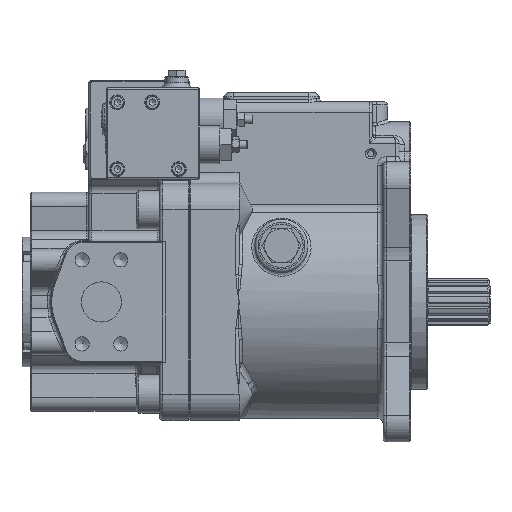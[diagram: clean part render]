
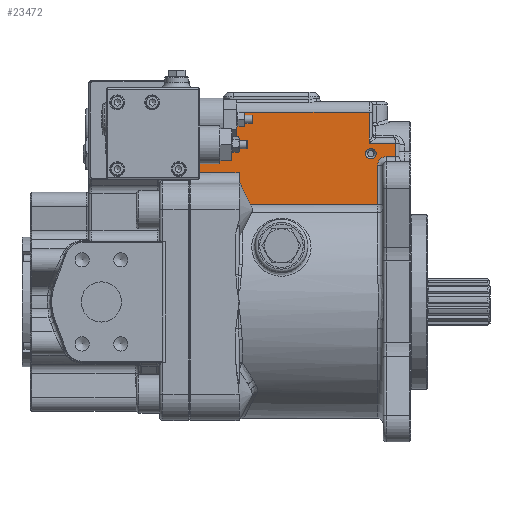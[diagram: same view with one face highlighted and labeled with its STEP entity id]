
A CAD part, left-side view. The second image highlights one B-rep face of the part: STEP entity #23472.
In plain terms, the highlighted planar face has unit normal (-1, 0, 0).
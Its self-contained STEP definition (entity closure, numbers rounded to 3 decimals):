
#1140=LINE('',#35312,#2346);
#1146=LINE('',#35328,#2352);
#1174=LINE('',#35535,#2380);
#1202=LINE('',#35704,#2408);
#1280=LINE('',#35998,#2486);
#1281=LINE('',#35999,#2487);
#1282=LINE('',#36000,#2488);
#1283=LINE('',#36002,#2489);
#1284=LINE('',#36006,#2490);
#1285=LINE('',#36008,#2491);
#1286=LINE('',#36009,#2492);
#2346=VECTOR('',#28558,46.);
#2352=VECTOR('',#28574,8.);
#2380=VECTOR('',#28658,120.426);
#2408=VECTOR('',#28742,57.);
#2486=VECTOR('',#29030,29.);
#2487=VECTOR('',#29031,169.);
#2488=VECTOR('',#29032,24.375);
#2489=VECTOR('',#29033,37.212);
#2490=VECTOR('',#29036,9.);
#2491=VECTOR('',#29037,12.75);
#2492=VECTOR('',#29038,25.);
#4306=FACE_BOUND('',#6504,.T.);
#4883=FACE_OUTER_BOUND('',#6503,.T.);
#6503=EDGE_LOOP('',(#15863,#15864,#15865,#15866,#15867,#15868,#15869,#15870,
#15871,#15872,#15873,#15874));
#6504=EDGE_LOOP('',(#15875));
#8278=CIRCLE('',#25356,8.);
#8279=CIRCLE('',#25357,5.);
#9560=VERTEX_POINT('',#35304);
#9563=VERTEX_POINT('',#35310);
#9568=VERTEX_POINT('',#35326);
#9617=VERTEX_POINT('',#35531);
#9619=VERTEX_POINT('',#35534);
#9657=VERTEX_POINT('',#35703);
#9744=VERTEX_POINT('',#35996);
#9745=VERTEX_POINT('',#35997);
#9746=VERTEX_POINT('',#36001);
#9747=VERTEX_POINT('',#36003);
#9748=VERTEX_POINT('',#36005);
#9749=VERTEX_POINT('',#36007);
#9750=VERTEX_POINT('',#36010);
#11781=EDGE_CURVE('',#9560,#9563,#1140,.T.);
#11789=EDGE_CURVE('',#9568,#9563,#1146,.T.);
#11844=EDGE_CURVE('',#9619,#9617,#1174,.T.);
#11896=EDGE_CURVE('',#9560,#9657,#1202,.T.);
#12033=EDGE_CURVE('',#9744,#9745,#1280,.T.);
#12034=EDGE_CURVE('',#9657,#9744,#1281,.T.);
#12035=EDGE_CURVE('',#9568,#9619,#1282,.T.);
#12036=EDGE_CURVE('',#9746,#9617,#1283,.T.);
#12037=EDGE_CURVE('',#9747,#9746,#8278,.T.);
#12038=EDGE_CURVE('',#9748,#9747,#1284,.T.);
#12039=EDGE_CURVE('',#9749,#9748,#1285,.T.);
#12040=EDGE_CURVE('',#9749,#9745,#1286,.T.);
#12041=EDGE_CURVE('',#9750,#9750,#8279,.T.);
#15863=ORIENTED_EDGE('',*,*,#12033,.F.);
#15864=ORIENTED_EDGE('',*,*,#12034,.F.);
#15865=ORIENTED_EDGE('',*,*,#11896,.F.);
#15866=ORIENTED_EDGE('',*,*,#11781,.T.);
#15867=ORIENTED_EDGE('',*,*,#11789,.F.);
#15868=ORIENTED_EDGE('',*,*,#12035,.T.);
#15869=ORIENTED_EDGE('',*,*,#11844,.T.);
#15870=ORIENTED_EDGE('',*,*,#12036,.F.);
#15871=ORIENTED_EDGE('',*,*,#12037,.F.);
#15872=ORIENTED_EDGE('',*,*,#12038,.F.);
#15873=ORIENTED_EDGE('',*,*,#12039,.F.);
#15874=ORIENTED_EDGE('',*,*,#12040,.T.);
#15875=ORIENTED_EDGE('',*,*,#12041,.T.);
#21239=PLANE('',#25355);
#23472=ADVANCED_FACE('',(#4883,#4306),#21239,.T.);
#25355=AXIS2_PLACEMENT_3D('',#35995,#29028,#29029);
#25356=AXIS2_PLACEMENT_3D('',#36004,#29034,#29035);
#25357=AXIS2_PLACEMENT_3D('',#36011,#29039,#29040);
#28558=DIRECTION('',(0.,-1.,0.));
#28574=DIRECTION('',(0.,0.,1.));
#28658=DIRECTION('',(0.,-1.,0.));
#28742=DIRECTION('',(0.,0.,1.));
#29028=DIRECTION('center_axis',(-1.,0.,0.));
#29029=DIRECTION('ref_axis',(0.,0.,1.));
#29030=DIRECTION('',(0.,0.,-1.));
#29031=DIRECTION('',(0.,-1.,0.));
#29032=DIRECTION('',(0.,-0.434,-0.901));
#29033=DIRECTION('',(0.,0.,-1.));
#29034=DIRECTION('center_axis',(-1.,0.,0.));
#29035=DIRECTION('ref_axis',(0.,0.707,0.707));
#29036=DIRECTION('',(0.,1.,0.));
#29037=DIRECTION('',(0.,0.,-1.));
#29038=DIRECTION('',(0.,1.,0.));
#29039=DIRECTION('center_axis',(1.,0.,0.));
#29040=DIRECTION('ref_axis',(0.,0.,1.));
#35304=CARTESIAN_POINT('',(-67.,211.,122.));
#35310=CARTESIAN_POINT('',(-67.,165.,122.));
#35312=CARTESIAN_POINT('',(-67.,215.,122.));
#35326=CARTESIAN_POINT('',(-67.,165.,114.));
#35328=CARTESIAN_POINT('',(-67.,165.,62.375));
#35531=CARTESIAN_POINT('',(-67.,34.,92.038));
#35534=CARTESIAN_POINT('',(-67.,154.426,92.038));
#35535=CARTESIAN_POINT('',(-67.,165.,92.038));
#35703=CARTESIAN_POINT('',(-67.,211.,179.));
#35704=CARTESIAN_POINT('',(-67.,211.,77.356));
#35995=CARTESIAN_POINT('Origin',(-67.,215.,122.));
#35996=CARTESIAN_POINT('',(-67.,42.,179.));
#35997=CARTESIAN_POINT('',(-67.,42.,150.));
#35998=CARTESIAN_POINT('',(-67.,42.,133.263));
#35999=CARTESIAN_POINT('',(-67.,215.,179.));
#36000=CARTESIAN_POINT('',(-67.,171.268,127.019));
#36001=CARTESIAN_POINT('',(-67.,34.,129.25));
#36002=CARTESIAN_POINT('',(-67.,34.,94.618));
#36003=CARTESIAN_POINT('',(-67.,26.,137.25));
#36004=CARTESIAN_POINT('Origin',(-67.,26.,129.25));
#36005=CARTESIAN_POINT('',(-67.,17.,137.25));
#36006=CARTESIAN_POINT('',(-67.,107.5,137.25));
#36007=CARTESIAN_POINT('',(-67.,17.,150.));
#36008=CARTESIAN_POINT('',(-67.,17.,133.263));
#36009=CARTESIAN_POINT('',(-67.,114.5,150.));
#36010=CARTESIAN_POINT('',(-67.,40.5,145.));
#36011=CARTESIAN_POINT('Origin',(-67.,40.5,140.));
